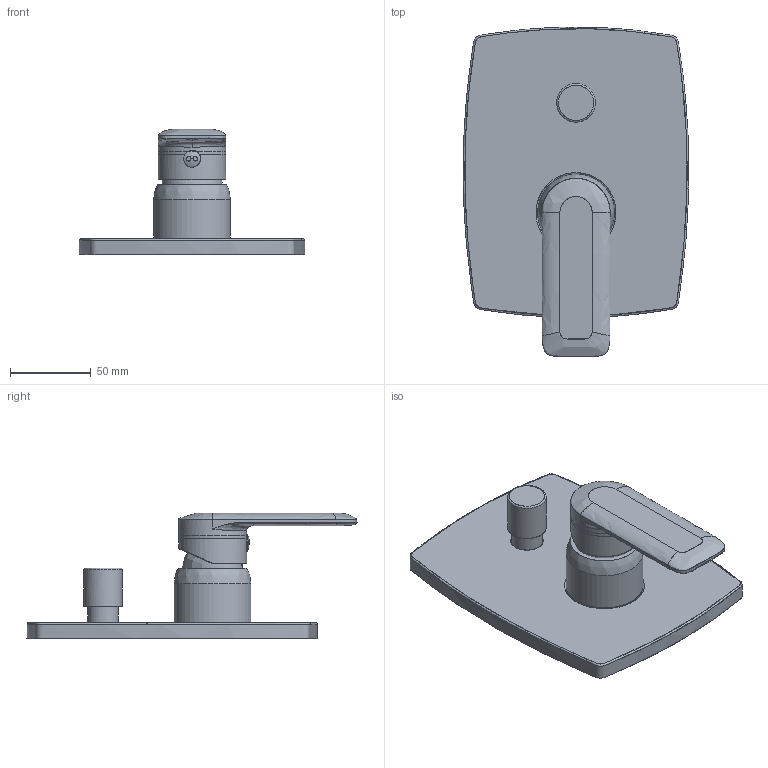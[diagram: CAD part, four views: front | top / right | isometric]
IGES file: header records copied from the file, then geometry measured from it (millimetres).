
Global section: file name: J:\Zlecenie 13\modele\eb2135.igs; native system: Rhinoceros ( Feb  3 2015 ); preprocessor: Trout Lake IGES 012 Feb  3 2015; date: 151025.220351; units: millimetre
Bounding box: 139.98 x 204.79 x 78.08 mm (x, y, z)
Surface area: 81228.1 mm2 (no closed solid volume)
Topology: 0 solids, 0 shells, 56 faces, 705 edges, 671 vertices
Faces by surface type: bspline 56
